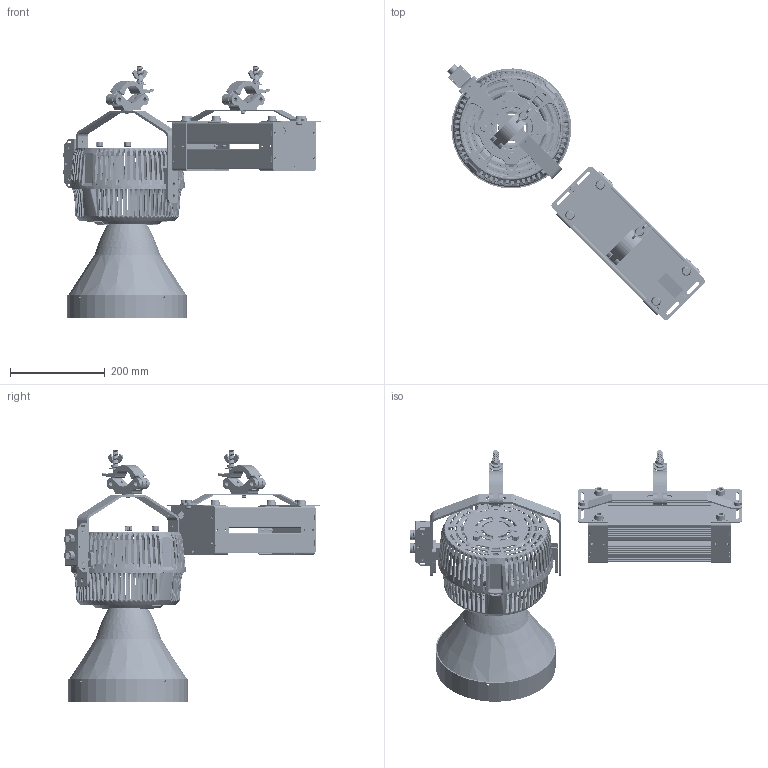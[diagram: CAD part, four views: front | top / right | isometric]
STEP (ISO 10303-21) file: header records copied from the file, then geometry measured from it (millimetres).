
FILE_DESCRIPTION (( 'STEP AP214' ), '1' );
FILE_NAME ('W2KS-CLP.STEP', '2024-01-31T02:00:12', ( '' ), ( '' ), 'SwSTEP 2.0', 'SolidWorks 2022', '' );
FILE_SCHEMA (( 'AUTOMOTIVE_DESIGN' ));
Length unit declared in the file: millimetre
Products named in the file (31): W2K 277V Power Supply_TYPE-B; SCREW, M8 L8 CAP HEAD, HEX SOCKET, SUS, BLACK___; REFLECTOR-15___; DMX Signal Cable_X2___; 5021745-200429010465_Plastic Foot, GL-4A, OD20 ID4.2 H10.4, Black___; 5022652-XXX_A1_Sheet Metal Part-A, 120x2x65mm___; 5022654-XXX_A1_Sheet Metal Part-C, 130x2x103.4mm_AC; Top Assembly W2K_20220609_15; 5022530-2022-01-10___; 62280-3364010 SCREW, M4 L10 PAN HEAD, HEX SOCKET, Threadlocking, SUS, BLACK___; HLG-480H_Power Supply___; 5022646_X1_REFLECTOR-15___; RJ45_WaterProof_3352I02029___; 5022650-XXX_A2_HandBar for 277V, 346.7x25x23mm___; 5022654-XXX_A1_Sheet Metal Part-C, 130x2x103.4mm___; PLATE_X3___; W2KS-CLP; 5022495-XXX_A3_Yoke, 275x30x195mm___; RJ45_WaterProof_3352I02029-PCB Housing___; 5021736-006_A2_Aluminum Hook, M12_Original; REFLECTOR-15 COVER_X3_0531___; CLP+TOKE___; 5021926_A1_KNOB, 18T, OD=14.9, ID=6, L=10MM___; 5022496_X2_Yoke Adapter___; 5022499_X2_Single Arm Pivot Base___; BOTTOM COVER_X2___; 62280-2163008 SCREW, M3 L8 FLAT HEAD, TORX, SUS, BLACK___; 5022531_X1_BOTTOM HOUSING FOR W2K&A2K; 5022653-XXX_A1_Sheet Metal Part-B, 130x40x103.4mm___; REFLECTOR-15_X2_0530___; TOP COVER_X2___
Assembly tree (50 placements, depth 5):
  W2KS-CLP
    Top Assembly W2K_20220609_15
      DMX Signal Cable_X2___
        BOTTOM COVER_X2___
        TOP COVER_X2___
        RJ45_WaterProof_3352I02029___  x2
          RJ45_WaterProof_3352I02029-PCB Housing___
      CLP+TOKE___
        5021736-006_A2_Aluminum Hook, M12_Original
        5022495-XXX_A3_Yoke, 275x30x195mm___
      5022531_X1_BOTTOM HOUSING FOR W2K&A2K
      5022496_X2_Yoke Adapter___  x2
      5022530-2022-01-10___
      5021926_A1_KNOB, 18T, OD=14.9, ID=6, L=10MM___  x2
      SCREW, M8 L8 CAP HEAD, HEX SOCKET, SUS, BLACK___
      5022499_X2_Single Arm Pivot Base___
      REFLECTOR-15___
        5022646_X1_REFLECTOR-15___
          REFLECTOR-15_X2_0530___
          REFLECTOR-15 COVER_X3_0531___
        PLATE_X3___
    W2K 277V Power Supply_TYPE-B
      HLG-480H_Power Supply___  x2
      5022653-XXX_A1_Sheet Metal Part-B, 130x40x103.4mm___  x2
      5022652-XXX_A1_Sheet Metal Part-A, 120x2x65mm___  x2
      5022654-XXX_A1_Sheet Metal Part-C, 130x2x103.4mm___
      62280-3364010 SCREW, M4 L10 PAN HEAD, HEX SOCKET, Threadlocking, SUS, BLACK___  x4
      5022654-XXX_A1_Sheet Metal Part-C, 130x2x103.4mm_AC
      62280-2163008 SCREW, M3 L8 FLAT HEAD, TORX, SUS, BLACK___  x6
      5021745-200429010465_Plastic Foot, GL-4A, OD20 ID4.2 H10.4, Black___  x4
      5022650-XXX_A2_HandBar for 277V, 346.7x25x23mm___
      SCREW, M8 L8 CAP HEAD, HEX SOCKET, SUS, BLACK___  x2
      5021736-006_A2_Aluminum Hook, M12_Original
Bounding box: 543.22 x 539.4 x 529.06 mm (x, y, z)
Volume: 3484260.5 mm3; surface area: 1184145 mm2
Topology: 57 solids, 57 shells, 7981 faces, 21316 edges, 13265 vertices
Faces by surface type: bspline 2447, plane 2260, cylinder 2127, torus 569, cone 542, sphere 36
Entity records: 398139 total; most frequent: CARTESIAN_POINT 228695, ORIENTED_EDGE 33548, DIRECTION 23313, EDGE_CURVE 16774, VERTEX_POINT 10307, AXIS2_PLACEMENT_3D 9456, EDGE_LOOP 6721, B_SPLINE_CURVE_WITH_KNOTS 6636
